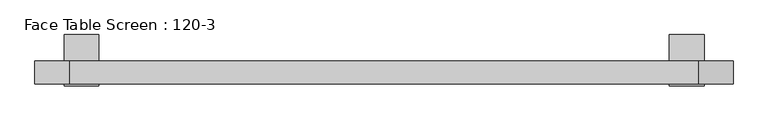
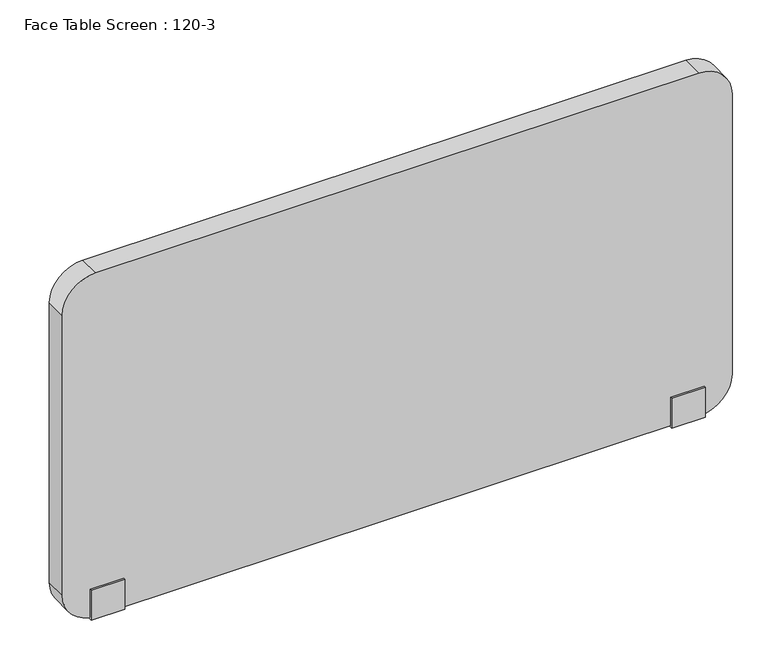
"""IFC4 building model written with IfcOpenShell, lengths in millimetres: furniture geometry, Face Table Screen : 120-3."""

import ifcopenshell
import ifcopenshell.guid

model = None  # the IFC model being written
_history = None  # IfcOwnerHistory: only IFC2X3 demands one
_inside = {}  # id of a spatial element -> (the spatial element, [elements in it])
_under = {}  # id of a project, library or spatial element -> (it, [spatial elements below it])
_declared = {}  # id of a project -> (the project, [libraries it declares])
_typed = {}  # id of a type object -> (the type object, [elements of that type])
_made_of = {}  # id of a material, layer set ... -> (it, [elements and type objects made of it])


def new_model(schema):
    """Start an empty IFC model of exactly this schema.

    Asked for "IFC4X3", IfcOpenShell would pick the latest addendum, in which some entities
    have other attributes; the version numbers below select the first issue.
    IFC2X3 requires an IfcOwnerHistory on every rooted entity: one is made here for all.
    """
    global model, _history
    if schema == "IFC4X3":
        model = ifcopenshell.file(schema_version=(4, 3, 0, 0))
    else:
        model = ifcopenshell.file(schema=schema)
    _inside.clear()
    _under.clear()
    _declared.clear()
    _typed.clear()
    _made_of.clear()
    _history = None
    if model.schema == "IFC2X3":
        org = make("IfcOrganization", Name="unknown")
        user = make(
            "IfcPersonAndOrganization",
            ThePerson=make("IfcPerson", FamilyName="unknown"),
            TheOrganization=org,
        )
        app = make(
            "IfcApplication",
            ApplicationDeveloper=org,
            Version="unknown",
            ApplicationFullName="unknown",
            ApplicationIdentifier="unknown",
        )
        _history = make(
            "IfcOwnerHistory",
            OwningUser=user,
            OwningApplication=app,
            ChangeAction="ADDED",
            CreationDate=0,
        )
    return model


def make(cls, **values):
    """One entity of the class cls with the attributes given. An attribute that is None is left unset."""
    return model.create_entity(
        cls, **{name: value for name, value in values.items() if value is not None}
    )


def rooted(cls, **values):
    """An entity with a GlobalId (a new one), such as an element, a storey or a relation."""
    return make(cls, GlobalId=ifcopenshell.guid.new(), OwnerHistory=_history, **values)


def si_unit(unit_type, name, prefix=None):
    """IfcSIUnit, for example si_unit("LENGTHUNIT", "METRE", prefix="MILLI")."""
    return make("IfcSIUnit", UnitType=unit_type, Prefix=prefix, Name=name)


def assignment(units):
    """IfcUnitAssignment: the units of a project."""
    return None if units is None else make("IfcUnitAssignment", Units=units)


def point(xyz):
    """IfcCartesianPoint."""
    return None if xyz is None else make("IfcCartesianPoint", Coordinates=xyz)


def direction(xyz):
    """IfcDirection."""
    return None if xyz is None else make("IfcDirection", DirectionRatios=xyz)


def frame(location, z_axis=None, x_axis=None):
    """IfcAxis2Placement3D, a coordinate frame: its origin and axes. An axis left out is left unset."""
    return make(
        "IfcAxis2Placement3D",
        Location=point(location),
        Axis=direction(z_axis),
        RefDirection=direction(x_axis),
    )


def frame_2d(location, x_axis=None):
    """IfcAxis2Placement2D, a coordinate frame in the plane: its origin and x axis."""
    return make(
        "IfcAxis2Placement2D", Location=point(location), RefDirection=direction(x_axis)
    )


def origin():
    """The frame at (0, 0, 0) with its axes left unset."""
    return frame((0.0, 0.0, 0.0))


def place(relative_to, where):
    """IfcLocalPlacement: puts the frame where relative to a parent placement (None: the world)."""
    return make(
        "IfcLocalPlacement", PlacementRelTo=relative_to, RelativePlacement=where
    )


def context(
    kind, dimensions, precision=None, world=None, true_north=None, identifier=None
):
    """IfcGeometricRepresentationContext, for example the 3D "Model" context."""
    return make(
        "IfcGeometricRepresentationContext",
        ContextIdentifier=identifier,
        ContextType=kind,
        CoordinateSpaceDimension=dimensions,
        Precision=precision,
        WorldCoordinateSystem=world,
        TrueNorth=true_north,
    )


def project(units=None, contexts=None):
    """IfcProject with its units and contexts."""
    return rooted(
        "IfcProject",
        Name="project",
        RepresentationContexts=contexts,
        UnitsInContext=assignment(units),
    )


def spatial(cls, under=None, at=None, **own):
    """A site, building, storey or space (cls), placed at a placement, below another one or the project."""
    s = rooted(cls, ObjectPlacement=at, **own)
    if under is not None:
        _under.setdefault(under.id(), (under, []))[1].append(s)
    return s


def polyline(points):
    """IfcPolyline through the points."""
    return make("IfcPolyline", Points=[point(p) for p in points])


def circle_curve(where, radius):
    """IfcCircle in the frame where."""
    return make("IfcCircle", Position=where, Radius=radius)


def trimmed(basis, trim1, trim2, sense, master):
    """IfcTrimmedCurve: the piece of a basis curve between two trims."""
    return make(
        "IfcTrimmedCurve",
        BasisCurve=basis,
        Trim1=trim1,
        Trim2=trim2,
        SenseAgreement=sense,
        MasterRepresentation=master,
    )


def segment(curve, same_sense, transition):
    """IfcCompositeCurveSegment."""
    return make(
        "IfcCompositeCurveSegment",
        Transition=transition,
        SameSense=same_sense,
        ParentCurve=curve,
    )


def composite_curve(segments, self_intersect=None):
    """IfcCompositeCurve: segments joined end to end."""
    return make("IfcCompositeCurve", Segments=segments, SelfIntersect=self_intersect)


def outline(outer, holes=None, kind="AREA"):
    """IfcArbitraryClosedProfileDef: a profile drawn as a closed curve; with holes, ...WithVoids."""
    if holes is None:
        return make("IfcArbitraryClosedProfileDef", ProfileType=kind, OuterCurve=outer)
    return make(
        "IfcArbitraryProfileDefWithVoids",
        ProfileType=kind,
        OuterCurve=outer,
        InnerCurves=holes,
    )


def extrude(swept, where, along, depth):
    """IfcExtrudedAreaSolid: the profile swept, set in the frame where, extruded along a direction by depth."""
    return make(
        "IfcExtrudedAreaSolid",
        SweptArea=swept,
        Position=where,
        ExtrudedDirection=direction(along),
        Depth=depth,
    )


def shape(context_of_items, identifier, shape_type, items):
    """IfcShapeRepresentation: the items that make up one representation, for example the "Body"."""
    return make(
        "IfcShapeRepresentation",
        ContextOfItems=context_of_items,
        RepresentationIdentifier=identifier,
        RepresentationType=shape_type,
        Items=items,
    )


def source(mapping_origin, context_of_items, identifier, shape_type, items):
    """IfcRepresentationMap: a shape defined once, which mapped items show again and again."""
    return make(
        "IfcRepresentationMap",
        MappingOrigin=mapping_origin,
        MappedRepresentation=shape(context_of_items, identifier, shape_type, items),
    )


def transform(
    local_origin,
    x_axis=None,
    y_axis=None,
    z_axis=None,
    scale=None,
    scale2=None,
    scale3=None,
    uniform=True,
):
    """IfcCartesianTransformationOperator3D, or its non-uniform kind. x_axis, y_axis, z_axis: its Axis1, 2, 3."""
    if uniform:
        return make(
            "IfcCartesianTransformationOperator3D",
            Axis1=direction(x_axis),
            Axis2=direction(y_axis),
            LocalOrigin=point(local_origin),
            Scale=scale,
            Axis3=direction(z_axis),
        )
    return make(
        "IfcCartesianTransformationOperator3DnonUniform",
        Axis1=direction(x_axis),
        Axis2=direction(y_axis),
        LocalOrigin=point(local_origin),
        Scale=scale,
        Axis3=direction(z_axis),
        Scale2=scale2,
        Scale3=scale3,
    )


def mapped(mapping_source, mapping_target):
    """IfcMappedItem: shows the shape of a source again, moved by a transform."""
    return make(
        "IfcMappedItem", MappingSource=mapping_source, MappingTarget=mapping_target
    )


def made_of(thing, what):
    """Note that an element or type object is made of a material, layer set ...; save() writes the relation."""
    if what is not None:
        _made_of.setdefault(what.id(), (what, []))[1].append(thing)
    return thing


def element(
    cls,
    number,
    at=None,
    inside=None,
    cuts=None,
    type_object=None,
    material=None,
    context=None,
    identifier="Body",
    shape_type=None,
    held_by="IfcProductDefinitionShape",
    body=None,
    shapes=None,
    **own,
):
    """One element of the class cls, such as IfcWall. Its Tag is "e" and its number.

    at: its placement. inside: the storey or other place that contains it. cuts: it is an
    opening in that element (IfcRelVoidsElement). A single representation is given by context,
    identifier, shape_type and body (its items); several are given by shapes. held_by: the class
    of the entity that holds the representations. save() writes the other relations.
    """
    e = rooted(cls, Tag="e%d" % number, ObjectPlacement=at, **own)
    if body is not None:
        shapes = [shape(context, identifier, shape_type, body)]
    if shapes is not None:
        e.Representation = make(held_by, Representations=shapes)
    if inside is not None:
        _inside.setdefault(inside.id(), (inside, []))[1].append(e)
    if cuts is not None:
        rooted(
            "IfcRelVoidsElement", RelatingBuildingElement=cuts, RelatedOpeningElement=e
        )
    if type_object is not None:
        _typed.setdefault(type_object.id(), (type_object, []))[1].append(e)
    return made_of(e, material)


def aggregate(whole, parts):
    """IfcRelAggregates: a whole, such as a stair, and the parts it consists of."""
    return rooted("IfcRelAggregates", RelatingObject=whole, RelatedObjects=parts)


def save(model, path):
    """Write the relations noted so far, then the file.

    IfcRelAggregates (storeys below a building ...), IfcRelContainedInSpatialStructure (elements
    in a storey), IfcRelDefinesByType, IfcRelAssociatesMaterial and IfcRelDeclares: one each for
    every whole, place, type object, material and project.
    """
    for whole, parts in _under.values():
        aggregate(whole, parts)
    for where, things in _inside.values():
        rooted(
            "IfcRelContainedInSpatialStructure",
            RelatedElements=things,
            RelatingStructure=where,
        )
    for kind, things in _typed.values():
        rooted("IfcRelDefinesByType", RelatedObjects=things, RelatingType=kind)
    for what, things in _made_of.values():
        rooted("IfcRelAssociatesMaterial", RelatedObjects=things, RelatingMaterial=what)
    for by, libraries in _declared.values():
        rooted("IfcRelDeclares", RelatingContext=by, RelatedDefinitions=libraries)
    model.write(path)


def face_table_screen_120_3_0d3e1d8e(model_context):
    return source(origin(), model_context, "Body", "SweptSolid", [
        extrude(outline(polyline([(-22.9999947, -156.0), (-22.9999997, -99.0433898), (-20.0, -99.0433898), (-20.0, -153.0), (20.0, -153.0), (20.0, -22.0), (65.0, -22.0), (65.0, -25.0433898), (23.0000062, -25.0433898), (22.9999947, -156.0), (-22.9999947, -156.0)])), frame((490.0, 0.0, 0.0), z_axis=(1.0, 0.0, 0.0), x_axis=(0.0, 1.0, 0.0)), (0.0, 0.0, 1.0), 60.0),
        extrude(outline(polyline([(-22.9999947, -156.0), (-22.9999997, -99.0433898), (-20.0, -99.0433898), (-20.0, -153.0), (20.0, -153.0), (20.0, -22.0), (65.0, -22.0), (65.0, -25.0433898), (23.0000062, -25.0433898), (22.9999947, -156.0), (-22.9999947, -156.0)])), frame((-550.0, 0.0, 0.0), z_axis=(1.0, 0.0, 0.0), x_axis=(0.0, 1.0, 0.0)), (0.0, 0.0, 1.0), 60.0),
        extrude(outline(composite_curve([segment(polyline([(497.0, 540.0), (497.0, -540.0)]), True, "CONTINUOUS"), segment(trimmed(circle_curve(frame_2d((437.0, -540.0)), 60.0), [point((497.0, -540.0))], [point((437.0, -600.0))], False, "CARTESIAN"), True, "CONTINUOUS"), segment(polyline([(437.0, -600.0), (-93.0, -600.0)]), True, "CONTINUOUS"), segment(trimmed(circle_curve(frame_2d((-93.0, -540.0)), 60.0), [point((-93.0, -600.0))], [point((-153.0, -540.0))], False, "CARTESIAN"), True, "CONTINUOUS"), segment(polyline([(-153.0, -540.0), (-153.0, 540.0)]), True, "CONTINUOUS"), segment(trimmed(circle_curve(frame_2d((-93.0, 540.0)), 60.0), [point((-153.0, 540.0))], [point((-93.0, 600.0))], False, "CARTESIAN"), True, "CONTINUOUS"), segment(polyline([(-93.0, 600.0), (437.0, 600.0)]), True, "CONTINUOUS"), segment(trimmed(circle_curve(frame_2d((437.0, 540.0)), 60.0), [point((437.0, 600.0))], [point((497.0, 540.0))], False, "CARTESIAN"), True, "CONTINUOUS")], self_intersect=False)), frame((0.0, -20.0, 0.0), z_axis=(0.0, 1.0, 0.0), x_axis=(0.0, 0.0, 1.0)), (0.0, 0.0, 1.0), 40.0),
    ])


if __name__ == "__main__":
    model = new_model("IFC4")
    model_context = context("Model", 3, world=origin())
    ifc_project = project(units=[si_unit("LENGTHUNIT", "METRE", prefix="MILLI")], contexts=[model_context])
    site = spatial("IfcSite", under=ifc_project)
    building = spatial("IfcBuilding", under=site)
    placement = place(None, origin())
    face_table_screen_120_3_shape = face_table_screen_120_3_0d3e1d8e(model_context)
    element("IfcFurniture", 1, ObjectType="Face Table Screen : 120-3", at=placement, inside=building, context=model_context, shape_type="MappedRepresentation", body=[
        mapped(face_table_screen_120_3_shape, transform((0.0, 0.0, 0.0), x_axis=(1.0, 0.0, 0.0), y_axis=(0.0, 1.0, 0.0), z_axis=(0.0, 0.0, 1.0))),
    ])
    save(model, "model.ifc")
